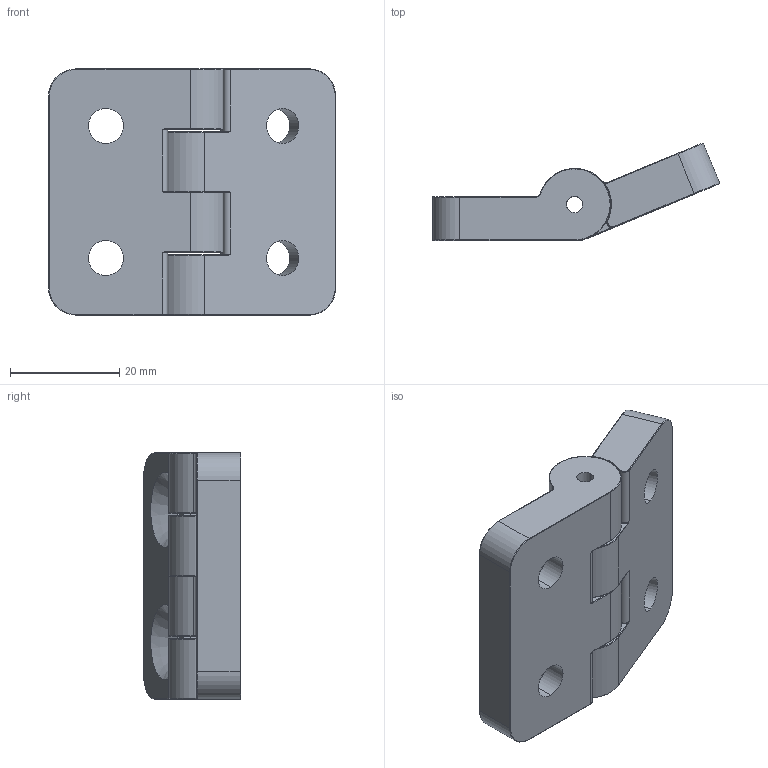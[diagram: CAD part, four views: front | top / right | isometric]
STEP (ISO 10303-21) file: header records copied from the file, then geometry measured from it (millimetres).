
FILE_DESCRIPTION (( 'STEP AP214' ), '1' );
FILE_NAME ('8-8-30.STEP', '2019-01-13T19:43:28', ( '' ), ( '' ), 'SwSTEP 2.0', 'SolidWorks 2018', '' );
FILE_SCHEMA (( 'AUTOMOTIVE_DESIGN' ));
Length unit declared in the file: millimetre
Products named in the file (2): 8-8-30; 3030
Assembly tree (2 placements, depth 2):
  8-8-30
    3030  x2
Bounding box: 52.51 x 17.82 x 45 mm (x, y, z)
Volume: 18465.6 mm3; surface area: 8564.9 mm2
Topology: 2 solids, 2 shells, 162 faces, 392 edges, 222 vertices
Faces by surface type: cylinder 68, torus 58, plane 16, bspline 12, cone 8
Entity records: 2594 total; most frequent: CARTESIAN_POINT 621, DIRECTION 452, ORIENTED_EDGE 380, AXIS2_PLACEMENT_3D 198, EDGE_CURVE 190, CIRCLE 118, VERTEX_POINT 111, EDGE_LOOP 89
